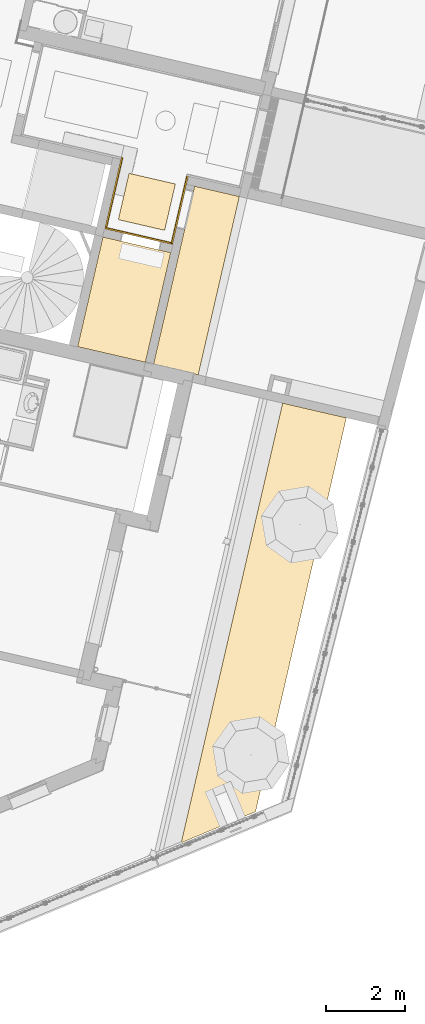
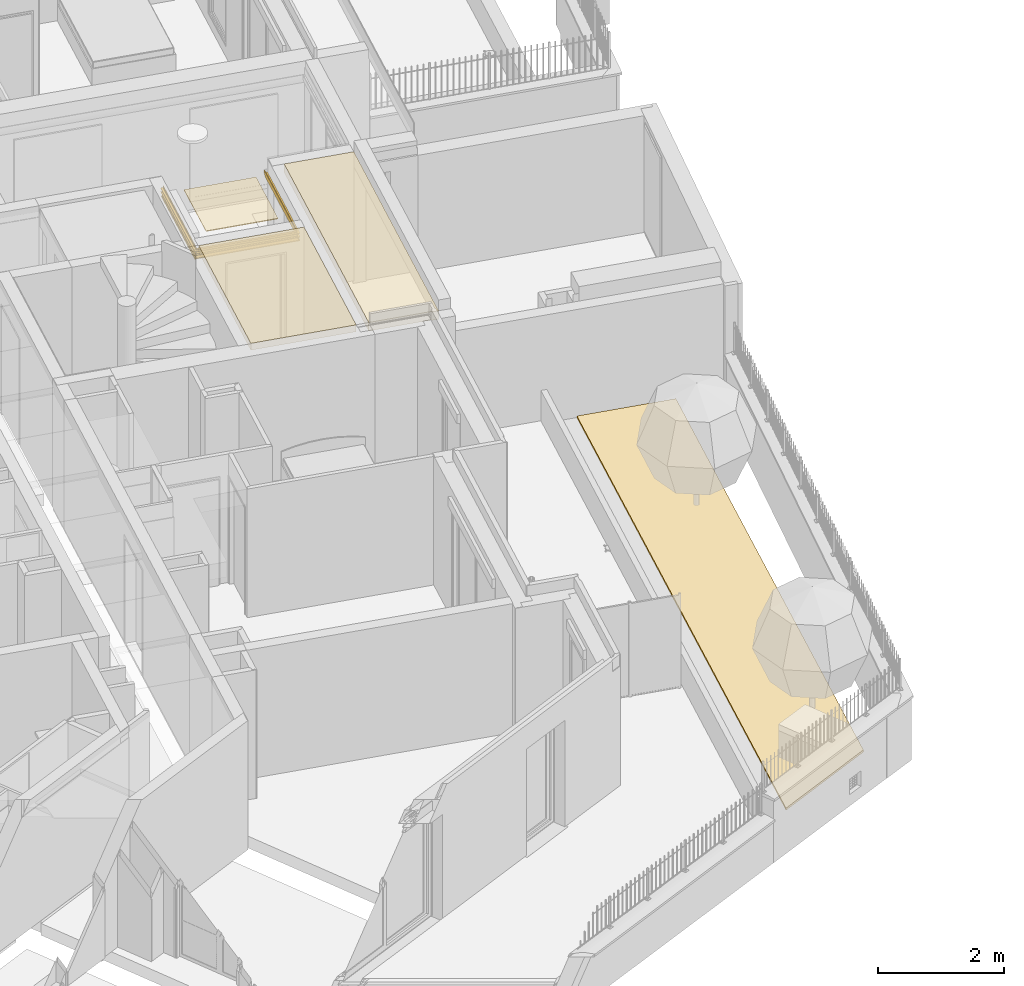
# One storey, part 74 of 119: 7 coverings.
"""IFC2X3 building model written with IfcOpenShell, lengths in metres."""

from ifc_helpers import new_model, entity, si_unit, converted_unit, derived_unit, money_unit, direction, frame, origin_with_axes, place, context, subcontext, project, spatial, faceted_brep, material, material_list, type_object, element, save


model = new_model("IFC2X3")

# Units and contexts
model_context = context("Model", 3, precision=1e-05, world=origin_with_axes(), true_north=direction((0.0, 1.0)))
body_context = subcontext(model_context, "Body", "Model", "MODEL_VIEW")
ifc_project = project(units=[si_unit("LENGTHUNIT", "METRE"), si_unit("AREAUNIT", "SQUARE_METRE"), si_unit("VOLUMEUNIT", "CUBIC_METRE"), converted_unit("PLANEANGLEUNIT", "DEGREE", entity("IfcPlaneAngleMeasure", 0.0174532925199), si_unit("PLANEANGLEUNIT", "RADIAN"), dimensions=[0, 0, 0, 0, 0, 0, 0]), si_unit("SOLIDANGLEUNIT", "STERADIAN"), money_unit("EUR"), converted_unit("TIMEUNIT", "Year", entity("IfcTimeMeasure", 31556926.0), si_unit("TIMEUNIT", "SECOND"), dimensions=[0, 0, 1, 0, 0, 0, 0]), si_unit("MASSUNIT", "GRAM", prefix="KILO"), si_unit("THERMODYNAMICTEMPERATUREUNIT", "DEGREE_CELSIUS"), si_unit("LUMINOUSINTENSITYUNIT", "LUMEN"), si_unit("ENERGYUNIT", "JOULE", prefix="MEGA"), derived_unit("THERMALCONDUCTANCEUNIT", [(si_unit("POWERUNIT", "WATT"), 1), (si_unit("LENGTHUNIT", "METRE"), -1), (si_unit("THERMODYNAMICTEMPERATUREUNIT", "KELVIN"), -1)]), derived_unit("SPECIFICHEATCAPACITYUNIT", [(si_unit("ENERGYUNIT", "JOULE"), 1), (si_unit("MASSUNIT", "GRAM", prefix="KILO"), -1), (si_unit("THERMODYNAMICTEMPERATUREUNIT", "KELVIN"), -1)]), derived_unit("MASSDENSITYUNIT", [(si_unit("MASSUNIT", "GRAM", prefix="KILO"), 1), (si_unit("VOLUMEUNIT", "CUBIC_METRE"), -1)])], contexts=[model_context])

# Site, building, storey
site_placement = place(None, origin_with_axes())
site = spatial("IfcSite", under=ifc_project, at=site_placement, Name="Site", CompositionType="ELEMENT")
building_placement = place(site_placement, origin_with_axes())
building = spatial("IfcBuilding", under=site, at=building_placement, Name="Bâtiment", CompositionType="ELEMENT")
storey_placement = place(building_placement, origin_with_axes())
storey = spatial("IfcBuildingStorey", under=building, at=storey_placement, Name="Rez-de-chaussée", CompositionType="ELEMENT", Elevation=0.0)

# Coverings
ifc_material_1 = material(Name="Finition int - Plaque de plâtre ACOUSTIQUE type GYPTONE")
covering_type_1 = type_object("IfcCoveringType", Name="Finition int - Plaque de plâtre ACOUSTIQUE type GYPTONE 15", PredefinedType="CEILING")
covering_1_placement = place(storey_placement, frame((-7.22758917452, -6.22691953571, 2.392), z_axis=(0.0, 0.0, 1.0), x_axis=(1.0, 0.0, 0.0)))
element("IfcCovering", 1, at=covering_1_placement, inside=storey, type_object=covering_type_1, material=ifc_material_1, Name="Dalle_004", PredefinedType="CEILING", context=body_context, shape_type="Brep", body=[
    faceted_brep([(0.0, 0.0, 0.0), (0.0, 0.0, -0.015), (1.16926481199, -0.269851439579, -0.015), (1.16926481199, -0.269851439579, 0.0), (0.269851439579, 1.16926481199, 0.0), (0.269851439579, 1.16926481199, -0.015), (1.43911625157, 0.899413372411, -0.015), (1.43911625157, 0.899413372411, 0.0)], [[[0, 1, 2, 3]], [[4, 5, 1, 0]], [[2, 1, 5, 6]], [[3, 2, 6, 7]], [[4, 0, 3, 7]], [[7, 6, 5, 4]]]),
])
ifc_material_2 = material(Name="Isolation - Laine de verre")
ifc_material_3 = material(Name="Finition int - Plaque de plâtre")
ifc_material_list_1 = material_list([ifc_material_2, ifc_material_3])
covering_type_2 = type_object("IfcCoveringType", Name="7 - Faux-plafond BA13 isolé laine 120mm 133", PredefinedType="CEILING")
covering_2_placement = place(storey_placement, frame((-7.61622887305, -6.66576368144, 2.51), z_axis=(0.0, 0.0, 1.0), x_axis=(1.0, 0.0, 0.0)))
element("IfcCovering", 2, at=covering_2_placement, inside=storey, type_object=covering_type_2, material=ifc_material_list_1, Name="Dalle_004", PredefinedType="CEILING", context=body_context, shape_type="Brep", body=[
    faceted_brep([(0.0, 0.0, -0.12), (-0.638648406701, -2.7672600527, -0.12), (-0.638648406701, -2.7672600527, 0.0), (0.0, 0.0, 0.0), (1.71004978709, -0.394657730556, -0.12), (1.0714013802, -3.16191778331, -0.12), (1.0714013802, -3.16191778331, 0.0), (1.71004978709, -0.394657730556, 0.0)], [[[0, 1, 2, 3]], [[1, 0, 4, 5]], [[1, 5, 6, 2]], [[7, 3, 2, 6]], [[4, 0, 3, 7]], [[5, 4, 7, 6]]]),
    faceted_brep([(0.0, 0.0, -0.12), (0.0, 0.0, -0.133), (-0.638648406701, -2.7672600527, -0.133), (-0.638648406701, -2.7672600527, -0.12), (1.71004978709, -0.394657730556, -0.12), (1.71004978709, -0.394657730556, -0.133), (1.0714013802, -3.16191778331, -0.133), (1.0714013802, -3.16191778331, -0.12)], [[[0, 1, 2, 3]], [[4, 5, 1, 0]], [[2, 1, 5, 6]], [[3, 2, 6, 7]], [[4, 0, 3, 7]], [[7, 6, 5, 4]]]),
])
ifc_material_4 = material(Name="Isolation - Polystyrène extrudé")
ifc_material_5 = material(Name="Finition int - Plaque de plâtre extérieure 13mm")
ifc_material_list_2 = material_list([ifc_material_4, ifc_material_5])
covering_type_3 = type_object("IfcCoveringType", Name="7 - Isolation FYBRASTYROC 150mm sous plancher 165", PredefinedType="INSULATION")
covering_3_placement = place(storey_placement, frame((-5.29453182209, -5.34400432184, 2.51), z_axis=(0.0, 0.0, 1.0), x_axis=(1.0, 0.0, 0.0)))
element("IfcCovering", 3, at=covering_3_placement, inside=storey, type_object=covering_type_3, material=ifc_material_list_2, Name="Dalle_003", PredefinedType="INSULATION", context=body_context, shape_type="Brep", body=[
    faceted_brep([(0.0819587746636, -4.80140737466, -0.15), (1.12088682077, -0.299737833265, -0.15), (1.12088682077, -0.299737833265, 0.0), (0.0819587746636, -4.80140737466, 0.0), (-1.04454994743, -4.5260292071, -0.15), (-0.0089950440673, -0.0389754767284, -0.15), (-0.0228676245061, -4.77721478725, -0.15), (-0.0194944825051, -4.76259898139, -0.15), (-0.0089950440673, -0.0389754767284, 0.0), (-1.04454994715, -4.52602920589, 0.0), (-0.0194944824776, -4.76259898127, 0.0), (-0.0228676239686, -4.77721478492, 0.0)], [[[0, 1, 2, 3]], [[4, 5, 1, 0, 6, 7]], [[5, 8, 2, 1]], [[3, 2, 8, 9, 10, 11]], [[3, 11, 6, 0]], [[9, 8, 5, 4]], [[6, 11, 10, 7]], [[7, 10, 9, 4]]]),
    faceted_brep([(0.0819587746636, -4.80140737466, -0.165), (1.12088682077, -0.299737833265, -0.165), (1.12088682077, -0.299737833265, -0.15), (0.0819587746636, -4.80140737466, -0.15), (-1.04454994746, -4.52602920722, -0.165), (-0.0089950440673, -0.0389754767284, -0.165), (-0.0228676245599, -4.77721478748, -0.165), (-0.0194944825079, -4.7625989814, -0.165), (-0.0089950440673, -0.0389754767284, -0.15), (-1.04454994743, -4.5260292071, -0.15), (-0.0194944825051, -4.76259898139, -0.15), (-0.0228676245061, -4.77721478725, -0.15)], [[[0, 1, 2, 3]], [[4, 5, 1, 0, 6, 7]], [[5, 8, 2, 1]], [[3, 2, 8, 9, 10, 11]], [[3, 11, 6, 0]], [[9, 8, 5, 4]], [[6, 11, 10, 7]], [[7, 10, 9, 4]]]),
])
ifc_material_6 = material(Name="Finition sol - Carrelage")
covering_type_4 = type_object("IfcCoveringType", Name="Corniche lumineuse 50 x 180", PredefinedType="USERDEFINED")
covering_4_placement = place(storey_placement, frame((-7.57134241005, -6.46060286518, 2.1), z_axis=(0.0, 0.0, 1.0), x_axis=(0.224876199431, 0.974387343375, 0.0)))
element("IfcCovering", 4, at=covering_4_placement, inside=storey, type_object=covering_type_4, material=ifc_material_6, Name="M_Ext-012", ObjectType="MOLDING", PredefinedType="USERDEFINED", context=body_context, shape_type="Brep", body=[
    faceted_brep([(1.85975731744, -0.0397777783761, 0.179999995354), (0.0497573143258, -0.039777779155, 0.179999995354), (0.0497573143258, -0.0497573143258, 0.179999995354), (1.85975731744, -0.0497573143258, 0.179999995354), (0.0485190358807, -0.039012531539, 0.151832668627), (0.0486246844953, -0.0390485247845, 0.153157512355), (1.85862468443, -0.0390485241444, 0.153157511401), (1.85851903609, -0.039012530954, 0.151832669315), (0.0486246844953, -0.0486246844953, 0.153157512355), (1.85862468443, -0.0486246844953, 0.153157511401), (0.0464894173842, -0.0367087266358, 0.126381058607), (0.0464894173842, -0.0464894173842, 0.126381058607), (0.0484134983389, -0.0384178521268, 0.15050921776), (0.0483677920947, -0.0370849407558, 0.149936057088), (0.0482645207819, 1.75415859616e-09, 0.148641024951), (0.0476820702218, 1.75415770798e-09, 0.141337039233), (0.0475812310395, -0.0362113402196, 0.140072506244), (0.0475282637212, -0.037631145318, 0.139408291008), (0.0474099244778, -0.0381359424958, 0.13792430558), (1.8583677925, -0.0370849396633, 0.149936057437), (1.85841349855, -0.0384178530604, 0.150509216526), (1.85648942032, -0.0464894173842, 0.126381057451), (1.85648942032, -0.0367087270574, 0.126381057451), (1.85740992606, -0.0381359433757, 0.137924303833), (1.85752826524, -0.0376311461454, 0.139408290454), (1.85758123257, -0.036211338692, 0.140072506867), (1.85768207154, 0.0, 0.14133703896), (1.85826452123, 0.0, 0.148641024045), (0.041833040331, -0.0322835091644, 0.0905901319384), (0.041833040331, -0.041833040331, 0.0905901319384), (1.85183304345, -0.0322835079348, 0.0905901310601), (1.85001410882, -0.031172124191, 0.081601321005), (0.0400141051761, -0.0311721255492, 0.0816013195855), (1.85183304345, -0.041833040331, 0.0905901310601), (0.0353553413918, -0.0267066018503, 0.0585786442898), (0.0353553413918, -0.0353553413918, 0.0585786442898), (0.0397780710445, -0.0305159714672, 0.0804348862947), (0.0396786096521, -0.0292711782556, 0.0799433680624), (0.0394717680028, -8.21918533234e-10, 0.0789211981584), (0.037871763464, -1.05185413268e-07, 0.0710142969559), (0.0376830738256, -0.0267024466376, 0.0700818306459), (0.0375300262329, -0.0281999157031, 0.0693255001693), (0.0372000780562, -0.0285946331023, 0.067694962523), (0.0353911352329, -0.0267542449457, 0.0587555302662), (1.84967861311, -0.0292711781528, 0.0799433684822), (1.84977807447, -0.0305159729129, 0.0804348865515), (1.84535534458, -0.0353553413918, 0.0585786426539), (1.84535534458, -0.0267066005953, 0.0585786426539), (1.84539113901, -0.0267542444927, 0.0587555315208), (1.84720008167, -0.0285946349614, 0.0676949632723), (1.84753002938, -0.0281999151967, 0.0693254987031), (1.84768307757, -0.0267024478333, 0.0700818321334), (1.8478717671, 0.0, 0.0710142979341), (1.84947177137, 0.0, 0.0789211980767), (0.027360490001, -0.0185426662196, 0.0326008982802), (0.027360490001, -0.027360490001, 0.0326008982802), (0.0297170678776, -0.0217720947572, 0.0402581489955), (1.83971707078, -0.0217720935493, 0.0402581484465), (1.8373604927, -0.027360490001, 0.032600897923), (1.8373604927, -0.0185426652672, 0.032600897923), (0.0229630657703, -0.0141301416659, 0.0223424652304), (0.0229630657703, -0.0229630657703, 0.0223424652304), (0.0230765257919, -0.0143278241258, 0.0226071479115), (1.83307652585, -0.0143278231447, 0.0226071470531), (1.83296306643, -0.0229630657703, 0.0223424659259), (1.83296306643, -0.0141301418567, 0.0223424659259), (0.018404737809, -0.00793106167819, 0.0140423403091), (0.018404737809, -0.018404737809, 0.0140423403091), (1.82840474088, -0.00793105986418, 0.0140423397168), (1.82768849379, -0.00728579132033, 0.0131783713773), (0.0176884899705, -0.00728579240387, 0.0131783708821), (1.82840474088, -0.018404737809, 0.0140423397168), (0.0104699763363, 1.75415948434e-09, 0.00447108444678), (0.0104699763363, -0.0104699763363, 0.00447108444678), (0.0157136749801, -0.00365822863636, 0.0107962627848), (0.0150535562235, 1.75415948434e-09, 0.00999999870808), (1.82505356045, 0.0, 0.0100000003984), (1.82571367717, -0.00365822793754, 0.0107962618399), (1.8204699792, -0.0104699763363, 0.00447108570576), (1.8204699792, 0.0, 0.00447108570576), (0.00552140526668, 1.75415948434e-09, 0.00123783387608), (0.00552140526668, -0.00552140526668, 0.00123783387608), (1.81552140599, 0.0, 0.0012378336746), (1.80999999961, 0.0, 0.0), (0.0, 1.75415770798e-09, 0.0), (1.81552140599, -0.00552140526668, 0.0012378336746)], [[[0, 1, 2, 3]], [[4, 5, 1, 0, 6, 7]], [[5, 8, 2, 1]], [[3, 2, 8, 9]], [[0, 3, 9, 6]], [[10, 11, 8, 5, 4, 12, 13, 14, 15, 16, 17, 18]], [[19, 20, 7, 6, 9, 21, 22, 23, 24, 25, 26, 27]], [[20, 12, 4, 7]], [[9, 8, 11, 21]], [[28, 29, 11, 10]], [[19, 13, 12, 20]], [[27, 14, 13, 19]], [[26, 15, 14, 27]], [[25, 16, 15, 26]], [[24, 17, 16, 25]], [[23, 18, 17, 24]], [[28, 10, 18, 23, 22, 30, 31, 32]], [[21, 33, 30, 22]], [[21, 11, 29, 33]], [[34, 35, 29, 28, 32, 36, 37, 38, 39, 40, 41, 42, 43]], [[44, 45, 31, 30, 33, 46, 47, 48, 49, 50, 51, 52, 53]], [[45, 36, 32, 31]], [[33, 29, 35, 46]], [[54, 55, 35, 34, 56]], [[44, 37, 36, 45]], [[53, 38, 37, 44]], [[52, 39, 38, 53]], [[51, 40, 39, 52]], [[50, 41, 40, 51]], [[49, 42, 41, 50]], [[48, 43, 42, 49]], [[56, 34, 43, 48, 47, 57]], [[58, 59, 57, 47, 46]], [[46, 35, 55, 58]], [[60, 61, 55, 54, 62]], [[62, 54, 56, 57, 59, 63]], [[64, 65, 63, 59, 58]], [[58, 55, 61, 64]], [[66, 67, 61, 60]], [[66, 60, 62, 63, 65, 68, 69, 70]], [[64, 71, 68, 65]], [[64, 61, 67, 71]], [[72, 73, 67, 66, 70, 74, 75]], [[76, 77, 69, 68, 71, 78, 79]], [[77, 74, 70, 69]], [[71, 67, 73, 78]], [[80, 81, 73, 72]], [[76, 75, 74, 77]], [[80, 72, 75, 76, 79, 82, 83, 84]], [[78, 85, 82, 79]], [[78, 73, 81, 85]], [[80, 84, 81]], [[82, 85, 83]], [[85, 81, 84, 83]]]),
])
covering_5_placement = place(storey_placement, frame((-5.46092421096, -5.13113447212, 2.1), z_axis=(0.0, 0.0, 1.0), x_axis=(-0.224876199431, -0.974387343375, 0.0)))
element("IfcCovering", 5, at=covering_5_placement, inside=storey, type_object=covering_type_4, material=ifc_material_6, Name="M_Ext-010", ObjectType="MOLDING", PredefinedType="USERDEFINED", context=body_context, shape_type="Brep", body=[
    faceted_brep([(1.7700000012, 0.0, 0.141337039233), (0.0, 0.0, 0.141337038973), (0.0, 0.0, 0.14864102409), (1.7700000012, 0.0, 0.148641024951), (1.73378865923, -0.036211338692, 0.140072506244), (-0.036211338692, -0.036211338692, 0.140072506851), (0.0, -0.0482645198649, 0.14864102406), (0.0, -0.0476820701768, 0.141337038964), (-0.0370849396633, -0.0370849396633, 0.149936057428), (1.73291505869, -0.0370849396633, 0.149936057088), (1.7700000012, -0.0482645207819, 0.148641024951), (1.7700000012, -0.0476820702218, 0.141337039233), (1.73236885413, -0.0376311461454, 0.139408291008), (-0.0376311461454, -0.0376311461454, 0.139408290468), (-0.036211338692, -0.0475812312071, 0.140072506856), (1.73378865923, -0.0475812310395, 0.140072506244), (-0.0370849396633, -0.0483677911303, 0.149936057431), (-0.0376311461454, -0.0475282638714, 0.139408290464), (-0.0381359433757, -0.0474099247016, 0.137924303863), (-0.0367087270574, -0.0464894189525, 0.126381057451), (1.73329127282, -0.0464894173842, 0.126381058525), (1.73186405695, -0.0474099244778, 0.13792430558), (1.73236885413, -0.0475282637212, 0.139408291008), (1.73291505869, -0.0483677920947, 0.149936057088), (1.73158214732, -0.0484134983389, 0.15050921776), (1.73098746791, -0.0485190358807, 0.151832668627), (1.73095147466, -0.0486246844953, 0.153157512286), (-0.0390485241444, -0.0486246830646, 0.153157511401), (-0.039012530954, -0.0485190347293, 0.151832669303), (-0.0384178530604, -0.0484134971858, 0.150509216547), (-0.0384178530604, -0.0384178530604, 0.150509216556), (1.73158214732, -0.0384178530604, 0.15050921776), (1.73186405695, -0.0381359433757, 0.13792430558), (-0.0381359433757, -0.0381359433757, 0.137924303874), (-0.031172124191, -0.031172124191, 0.08160132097), (-0.031172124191, -0.0400141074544, 0.081601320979), (-0.0322835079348, -0.0418330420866, 0.0905901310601), (1.73771649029, -0.041833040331, 0.0905901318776), (1.7388278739, -0.0400141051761, 0.0816013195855), (1.7388278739, -0.031172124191, 0.0816013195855), (1.73098746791, -0.039012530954, 0.151832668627), (1.73022222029, -0.0397777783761, 0.179999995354), (1.73022222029, -0.0497573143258, 0.179999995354), (-0.0397777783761, -0.04975731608, 0.179999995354), (-0.0397777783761, -0.0397777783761, 0.179999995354), (-0.039012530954, -0.039012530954, 0.151832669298), (-0.0305159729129, -0.0305159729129, 0.0804348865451), (-0.0305159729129, -0.0397780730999, 0.0804348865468), (-0.0285946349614, -0.0372000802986, 0.0676949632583), (-0.0267542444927, -0.0353911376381, 0.058755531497), (-0.0267066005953, -0.0353553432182, 0.0585786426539), (1.74329339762, -0.0353553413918, 0.058578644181), (1.7432457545, -0.0353911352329, 0.0587555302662), (1.74140536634, -0.0372000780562, 0.067694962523), (1.74180008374, -0.0375300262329, 0.0693255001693), (1.74329755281, -0.0376830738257, 0.0700818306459), (1.76999989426, -0.037871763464, 0.0710142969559), (1.76999999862, -0.0394717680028, 0.0789211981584), (1.74072882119, -0.0396786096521, 0.0799433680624), (1.73948402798, -0.0397780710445, 0.0804348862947), (-0.0292711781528, -0.0396786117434, 0.0799433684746), (0.0, -0.0394717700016, 0.0789211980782), (0.0, -0.0378717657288, 0.0710142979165), (-0.0267024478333, -0.037683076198, 0.0700818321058), (-0.0281999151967, -0.0375300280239, 0.0693254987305), (1.73948402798, -0.0305159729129, 0.0804348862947), (-0.0292711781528, -0.0292711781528, 0.0799433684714), (-0.0285946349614, -0.0285946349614, 0.0676949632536), (-0.0267542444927, -0.0267542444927, 0.0587555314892), (-0.0217720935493, -0.0217720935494, 0.0402581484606), (-0.0217720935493, -0.0297170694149, 0.0402581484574), (-0.0185426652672, -0.0273604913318, 0.032600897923), (1.75145733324, -0.027360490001, 0.0326008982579), (1.74822790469, -0.0297170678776, 0.0402581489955), (1.74822790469, -0.0217720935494, 0.0402581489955), (1.7432457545, -0.0267542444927, 0.0587555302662), (1.74140536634, -0.0285946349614, 0.067694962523), (1.74180008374, -0.0281999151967, 0.0693255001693), (1.74329755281, -0.0267024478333, 0.0700818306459), (1.76999989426, 0.0, 0.0710142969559), (1.76999999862, 0.0, 0.0789211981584), (1.74072882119, -0.0292711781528, 0.0799433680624), (0.0, 0.0, 0.0789211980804), (0.0, 0.0, 0.0710142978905), (-0.0267024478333, -0.0267024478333, 0.0700818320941), (-0.0281999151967, -0.0281999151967, 0.0693254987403), (-0.0143278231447, -0.0143278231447, 0.0226071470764), (-0.0143278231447, -0.0230765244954, 0.0226071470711), (-0.0141301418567, -0.0229630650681, 0.0223424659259), (1.75586985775, -0.0229630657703, 0.0223424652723), (1.75567217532, -0.0230765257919, 0.0226071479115), (1.75567217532, -0.0143278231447, 0.0226071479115), (-0.00728579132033, -0.00728579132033, 0.0131783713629), (-0.00728579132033, -0.0176884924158, 0.0131783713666), (-0.00793105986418, -0.0184047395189, 0.0140423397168), (1.76206893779, -0.018404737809, 0.0140423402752), (1.76271420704, -0.0176884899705, 0.0131783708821), (1.76271420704, -0.00728579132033, 0.0131783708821), (-0.00365822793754, -0.00365822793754, 0.0107962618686), (-0.00365822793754, -0.0157136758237, 0.0107962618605), (0.0, -0.0150535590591, 0.0100000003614), (0.0, -0.0104699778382, 0.00447108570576), (1.7700000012, -0.0104699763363, 0.00447108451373), (1.7700000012, -0.0150535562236, 0.00999999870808), (1.76634177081, -0.0157136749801, 0.0107962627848), (1.76634177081, -0.00365822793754, 0.0107962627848), (0.0, 0.0, 0.0100000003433), (0.0, 1.75415593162e-09, 0.0), (0.0, -0.00552140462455, 0.0012378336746), (1.7700000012, -0.00552140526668, 0.00123783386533), (1.7700000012, 0.0, 0.0), (1.7700000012, 0.0, 0.00999999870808)], [[[0, 1, 2, 3]], [[4, 5, 1, 0]], [[6, 2, 1, 7]], [[3, 2, 8, 9]], [[10, 11, 0, 3]], [[12, 13, 5, 4]], [[7, 1, 5, 14]], [[11, 15, 4, 0]], [[16, 8, 2, 6]], [[17, 18, 19, 20, 21, 22, 15, 11, 10, 23, 24, 25, 26, 27, 28, 29, 16, 6, 7, 14]], [[9, 8, 30, 31]], [[23, 10, 3, 9]], [[32, 33, 13, 12]], [[14, 5, 13, 17]], [[15, 22, 12, 4]], [[29, 30, 8, 16]], [[17, 13, 33, 18]], [[18, 33, 34, 35, 36, 19]], [[20, 19, 36, 37]], [[37, 38, 39, 32, 21, 20]], [[22, 21, 32, 12]], [[24, 23, 9, 31]], [[25, 24, 31, 40]], [[26, 25, 40, 41, 42]], [[42, 43, 27, 26]], [[43, 44, 45, 28, 27]], [[28, 45, 30, 29]], [[31, 30, 45, 40]], [[39, 34, 33, 32]], [[35, 34, 46, 47]], [[48, 49, 50, 51, 52, 53, 54, 55, 56, 57, 58, 59, 38, 37, 36, 35, 47, 60, 61, 62, 63, 64]], [[38, 59, 65, 39]], [[40, 45, 44, 41]], [[41, 44, 43, 42]], [[65, 46, 34, 39]], [[47, 46, 66, 60]], [[48, 67, 68, 49]], [[49, 68, 69, 70, 50]], [[50, 70, 71, 72, 73, 51]], [[51, 73, 74, 75, 52]], [[53, 52, 75, 76]], [[54, 53, 76, 77]], [[55, 54, 77, 78]], [[56, 55, 78, 79]], [[57, 56, 79, 80]], [[58, 57, 80, 81]], [[59, 58, 81, 65]], [[60, 66, 82, 61]], [[61, 82, 83, 62]], [[62, 83, 84, 63]], [[63, 84, 85, 64]], [[64, 85, 67, 48]], [[81, 66, 46, 65]], [[75, 68, 67, 76]], [[74, 69, 68, 75]], [[70, 69, 86, 87, 71]], [[71, 87, 88, 89, 90, 72]], [[72, 90, 91, 74, 73]], [[76, 67, 85, 77]], [[77, 85, 84, 78]], [[78, 84, 83, 79]], [[79, 83, 82, 80]], [[80, 82, 66, 81]], [[91, 86, 69, 74]], [[87, 86, 92, 93, 94, 88]], [[89, 88, 94, 95]], [[95, 96, 97, 91, 90, 89]], [[97, 92, 86, 91]], [[93, 92, 98, 99]], [[99, 100, 101, 102, 103, 104, 96, 95, 94, 93]], [[96, 104, 105, 97]], [[105, 98, 92, 97]], [[99, 98, 106, 100]], [[100, 106, 107, 108, 101]], [[102, 101, 108, 109]], [[102, 109, 110, 111, 103]], [[104, 103, 111, 105]], [[111, 106, 98, 105]], [[110, 107, 106, 111]], [[109, 108, 107, 110]]]),
])
covering_6_placement = place(storey_placement, frame((-5.85895508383, -6.85580006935, 2.1), z_axis=(0.0, 0.0, 1.0), x_axis=(-0.974387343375, 0.224876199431, 0.0)))
element("IfcCovering", 6, at=covering_6_placement, inside=storey, type_object=covering_type_4, material=ifc_material_6, Name="M_Ext-011", ObjectType="MOLDING", PredefinedType="USERDEFINED", context=body_context, shape_type="Brep", body=[
    faceted_brep([(1.75739898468, -0.00552140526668, 0.00123783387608), (0.00552140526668, -0.00552140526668, 0.00123783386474), (0.0, 1.75415859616e-09, 0.0), (1.75739898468, 0.0, 0.0), (1.75739898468, -0.0104699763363, 0.00447108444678), (0.0104699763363, -0.0104699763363, 0.00447108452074), (0.00552140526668, 1.75415770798e-09, 0.00123783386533), (0.0104699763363, 1.75415770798e-09, 0.00447108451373), (0.0150535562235, 1.75415770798e-09, 0.00999999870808), (1.75739898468, 0.0, 0.00999999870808), (1.75739898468, -0.0150535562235, 0.00999999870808), (1.74946792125, -0.018404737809, 0.0140423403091), (0.018404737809, -0.018404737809, 0.0140423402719), (1.75374075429, -0.0157136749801, 0.0107962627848), (1.75011319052, -0.0176884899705, 0.0131783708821), (0.018404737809, -0.0079310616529, 0.0140423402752), (0.0176884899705, -0.00728579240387, 0.0131783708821), (0.0157136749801, -0.00365822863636, 0.0107962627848), (1.75374075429, -0.00365822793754, 0.0107962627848), (1.74326884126, -0.0229630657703, 0.0223424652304), (0.0229630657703, -0.0229630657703, 0.0223424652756), (1.75011319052, -0.00728579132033, 0.0131783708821), (1.7430711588, -0.0143278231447, 0.0226071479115), (1.7430711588, -0.0230765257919, 0.0226071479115), (0.0229630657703, -0.0141301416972, 0.0223424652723), (0.0230765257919, -0.0143278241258, 0.0226071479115), (1.7388563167, -0.027360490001, 0.0326008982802), (0.027360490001, -0.027360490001, 0.0326008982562), (1.73562688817, -0.0217720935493, 0.0402581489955), (1.73562688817, -0.0297170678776, 0.0402581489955), (0.027360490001, -0.0185426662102, 0.0326008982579), (0.0297170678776, -0.0217720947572, 0.0402581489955), (1.73069238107, -0.0353553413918, 0.0585786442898), (0.0353553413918, -0.0353553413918, 0.0585786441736), (1.73064473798, -0.0267542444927, 0.0587555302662), (1.73064473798, -0.0353911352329, 0.0587555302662), (0.0353553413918, -0.026706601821, 0.058578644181), (0.0353911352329, -0.0267542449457, 0.0587555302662), (1.72511547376, -0.041833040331, 0.0905901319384), (0.041833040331, -0.041833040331, 0.0905901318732), (1.72880434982, -0.0372000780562, 0.067694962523), (1.72919906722, -0.0375300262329, 0.0693255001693), (1.73069653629, -0.0376830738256, 0.0700818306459), (1.75739887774, -0.037871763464, 0.0710142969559), (1.7573989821, -0.0394717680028, 0.0789211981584), (1.72812780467, -0.0396786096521, 0.0799433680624), (1.72688301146, -0.0397780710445, 0.0804348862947), (1.72622685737, -0.0400141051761, 0.0816013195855), (1.72880434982, -0.0285946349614, 0.067694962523), (0.041833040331, -0.0322835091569, 0.0905901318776), (0.0400141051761, -0.0311721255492, 0.0816013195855), (0.0397780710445, -0.0305159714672, 0.0804348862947), (0.0396786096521, -0.0292711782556, 0.0799433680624), (0.0394717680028, -8.2191498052e-10, 0.0789211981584), (0.037871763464, -1.05185398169e-07, 0.0710142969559), (0.0376830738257, -0.0267024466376, 0.0700818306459), (0.0375300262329, -0.0281999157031, 0.0693255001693), (0.0372000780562, -0.0285946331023, 0.067694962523), (1.72069025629, -0.0464894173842, 0.126381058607), (0.0464894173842, -0.0464894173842, 0.126381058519), (1.72919906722, -0.0281999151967, 0.0693255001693), (1.73069653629, -0.0267024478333, 0.0700818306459), (1.75739887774, 0.0, 0.0710142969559), (1.7573989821, 0.0, 0.0789211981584), (1.72812780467, -0.0292711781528, 0.0799433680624), (1.72688301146, -0.0305159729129, 0.0804348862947), (1.72622685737, -0.031172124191, 0.0816013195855), (1.71926304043, -0.0381359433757, 0.13792430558), (1.71926304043, -0.0474099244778, 0.13792430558), (0.0464894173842, -0.0367087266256, 0.126381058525), (0.0474099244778, -0.0381359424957, 0.13792430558), (1.71835045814, -0.0486246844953, 0.153157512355), (0.0486246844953, -0.0486246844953, 0.153157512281), (1.71976783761, -0.0475282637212, 0.139408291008), (1.7211876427, -0.0475812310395, 0.140072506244), (1.75739898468, -0.0476820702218, 0.141337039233), (1.75739898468, -0.0482645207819, 0.148641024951), (1.72031404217, -0.0483677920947, 0.149936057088), (1.7189811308, -0.0484134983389, 0.15050921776), (1.71838645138, -0.0485190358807, 0.151832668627), (1.71976783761, -0.0376311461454, 0.139408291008), (0.0486246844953, -0.0390485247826, 0.153157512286), (0.0485190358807, -0.039012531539, 0.151832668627), (0.0484134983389, -0.0384178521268, 0.15050921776), (0.0483677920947, -0.0370849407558, 0.149936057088), (0.0482645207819, 1.75415948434e-09, 0.148641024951), (0.0476820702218, 1.75415859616e-09, 0.141337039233), (0.0475812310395, -0.0362113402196, 0.140072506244), (0.0475282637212, -0.037631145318, 0.139408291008), (1.71762120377, -0.0497573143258, 0.179999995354), (0.0497573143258, -0.0497573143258, 0.179999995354), (1.7211876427, -0.036211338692, 0.140072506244), (1.75739898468, 0.0, 0.141337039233), (1.75739898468, 0.0, 0.148641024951), (1.72031404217, -0.0370849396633, 0.149936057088), (1.7189811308, -0.0384178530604, 0.15050921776), (1.71838645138, -0.039012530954, 0.151832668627), (1.71762120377, -0.0397777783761, 0.179999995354), (0.0497573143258, -0.039777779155, 0.179999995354)], [[[0, 1, 2, 3]], [[4, 5, 1, 0]], [[1, 6, 2]], [[6, 7, 8, 9, 3, 2]], [[4, 0, 3, 9, 10]], [[11, 12, 5, 4, 10, 13, 14]], [[6, 1, 5, 7]], [[7, 5, 12, 15, 16, 17, 8]], [[9, 8, 17, 18]], [[13, 10, 9, 18]], [[19, 20, 12, 11]], [[14, 13, 18, 21]], [[11, 14, 21, 22, 23, 19]], [[15, 12, 20, 24]], [[15, 24, 25, 22, 21, 16]], [[18, 17, 16, 21]], [[26, 27, 20, 19, 23]], [[26, 23, 22, 28, 29]], [[24, 20, 27, 30, 25]], [[25, 30, 31, 28, 22]], [[32, 33, 27, 26, 29]], [[32, 29, 28, 34, 35]], [[30, 27, 33, 36, 31]], [[31, 36, 37, 34, 28]], [[38, 39, 33, 32, 35, 40, 41, 42, 43, 44, 45, 46, 47]], [[40, 35, 34, 48]], [[36, 33, 39, 49, 50, 51, 52, 53, 54, 55, 56, 57, 37]], [[34, 37, 57, 48]], [[58, 59, 39, 38]], [[41, 40, 48, 60]], [[42, 41, 60, 61]], [[43, 42, 61, 62]], [[44, 43, 62, 63]], [[45, 44, 63, 64]], [[46, 45, 64, 65]], [[47, 46, 65, 66]], [[38, 47, 66, 67, 68, 58]], [[49, 39, 59, 69]], [[49, 69, 70, 67, 66, 50]], [[65, 51, 50, 66]], [[64, 52, 51, 65]], [[63, 53, 52, 64]], [[62, 54, 53, 63]], [[61, 55, 54, 62]], [[60, 56, 55, 61]], [[48, 57, 56, 60]], [[71, 72, 59, 58, 68, 73, 74, 75, 76, 77, 78, 79]], [[73, 68, 67, 80]], [[69, 59, 72, 81, 82, 83, 84, 85, 86, 87, 88, 70]], [[67, 70, 88, 80]], [[89, 90, 72, 71]], [[74, 73, 80, 91]], [[75, 74, 91, 92]], [[76, 75, 92, 93]], [[77, 76, 93, 94]], [[78, 77, 94, 95]], [[79, 78, 95, 96]], [[89, 71, 79, 96, 97]], [[81, 72, 90, 98]], [[82, 81, 98, 97, 96]], [[95, 83, 82, 96]], [[94, 84, 83, 95]], [[93, 85, 84, 94]], [[92, 86, 85, 93]], [[91, 87, 86, 92]], [[80, 88, 87, 91]], [[97, 98, 90, 89]]]),
])
ifc_material_7 = material(Name="Panneau drainage")
covering_type_5 = type_object("IfcCoveringType", Name="Panneau drainage 40", PredefinedType="INSULATION")
covering_7_placement = place(storey_placement, frame((-3.08080949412, -10.8580470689, 0.150000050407), z_axis=(0.0, 0.0, 1.0), x_axis=(1.0, 0.0, 0.0)))
element("IfcCovering", 7, at=covering_7_placement, inside=storey, type_object=covering_type_5, material=ifc_material_7, Name="Dalle_004", PredefinedType="INSULATION", context=body_context, shape_type="Brep", body=[
    faceted_brep([(0.0, 0.0, 0.0), (0.0, 0.0, -0.04), (-2.56139667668, -11.098517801, -0.04), (-2.56139667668, -11.098517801, 0.0), (1.60771103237, -0.371039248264, 0.0), (1.60771103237, -0.371039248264, -0.04), (-0.683886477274, -10.3140012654, -0.04), (-0.683886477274, -10.3140012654, 0.0)], [[[0, 1, 2, 3]], [[4, 5, 1, 0]], [[2, 1, 5, 6]], [[3, 2, 6, 7]], [[4, 0, 3, 7]], [[7, 6, 5, 4]]]),
])

save(model, "model.ifc")
